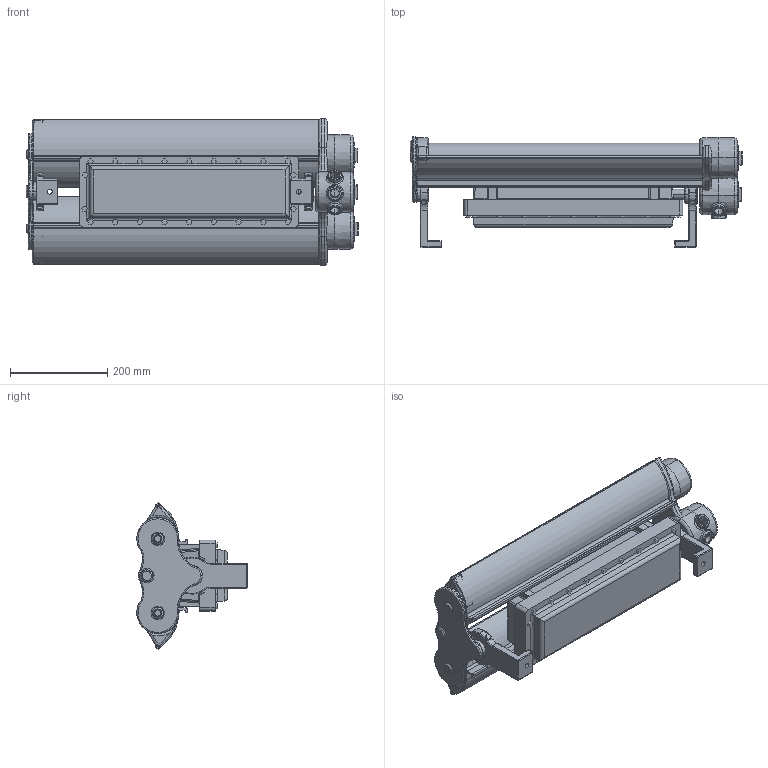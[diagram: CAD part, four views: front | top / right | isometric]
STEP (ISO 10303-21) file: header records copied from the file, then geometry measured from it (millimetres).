
FILE_DESCRIPTION (( 'STEP AP214' ), '1' );
FILE_NAME ('EPL-24-2L.STEP', '2015-03-10T19:00:47', ( '' ), ( '' ), 'SwSTEP 2.0', 'SolidWorks 2015', '' );
FILE_SCHEMA (( 'AUTOMOTIVE_DESIGN' ));
Length unit declared in the file: inch
Products named in the file (3): EPL-24-2L; Ballast Box; EPL-24-2L Edited
Assembly tree (2 placements, depth 2):
  EPL-24-2L
    EPL-24-2L Edited
    Ballast Box
Bounding box: 683.46 x 227.5 x 301.4 mm (x, y, z)
Surface area: 1188396.6 mm2 (no closed solid volume)
Topology: 0 solids, 21 shells, 715 faces, 2040 edges, 1310 vertices
Faces by surface type: plane 282, cylinder 203, torus 143, cone 40, sphere 26, bspline 21
Entity records: 35257 total; most frequent: CARTESIAN_POINT 10091, DIRECTION 3834, ORIENTED_EDGE 3571, EDGE_CURVE 2016, AXIS2_PLACEMENT_3D 1356, VERTEX_POINT 1310, VECTOR 1122, LINE 1122
